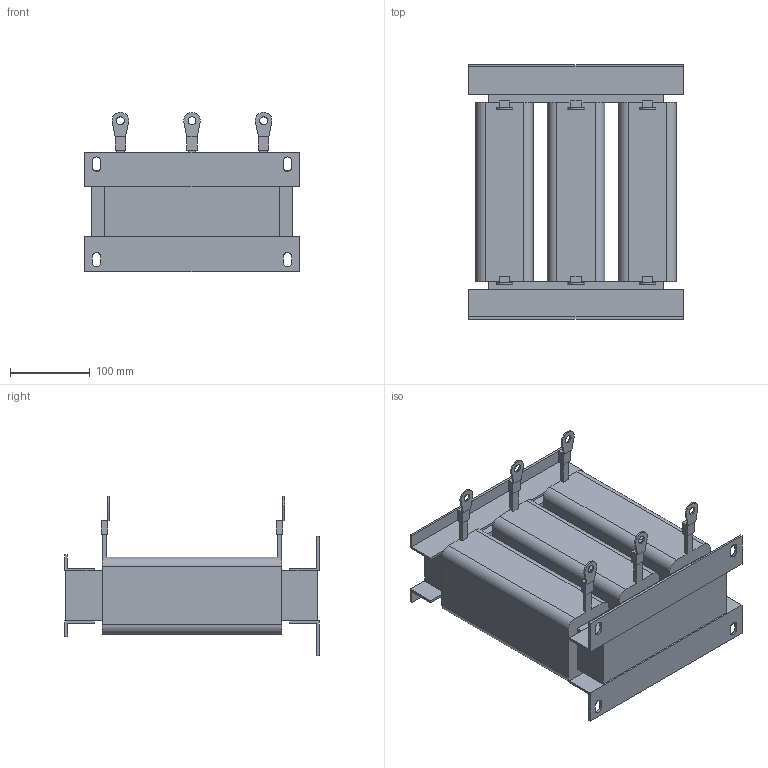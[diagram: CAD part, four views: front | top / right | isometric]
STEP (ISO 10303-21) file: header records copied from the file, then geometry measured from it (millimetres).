
FILE_DESCRIPTION(/* description */ (''),/* implementation_level */ '2;1');
FILE_NAME(/* name */ 'ACO-0052-T6-4.stp',/* time_stamp */ '2025-01-23T15:57:51+04:00',/* author */ ('Александр (огранич)'),/* organization */ (''),/* preprocessor_version */ 'ST-DEVELOPER v19.2',/* originating_system */ 'Autodesk Inventor 2024',/* authorisation */ '');
FILE_SCHEMA (('AUTOMOTIVE_DESIGN { 1 0 10303 214 3 1 1 }'));
Length unit declared in the file: millimetre
Products named in the file (1): ACO-0015-T4-4
Bounding box: 270 x 320 x 199.96 mm (x, y, z)
Volume: 6142086.8 mm3; surface area: 420372.7 mm2
Topology: 7 solids, 7 shells, 190 faces, 498 edges, 324 vertices
Faces by surface type: plane 158, cylinder 32
Full cylindrical faces by diameter (mm): 10 x6
Entity records: 5839 total; most frequent: CARTESIAN_POINT 1013, ORIENTED_EDGE 996, DIRECTION 944, EDGE_CURVE 498, LINE 434, VECTOR 434, VERTEX_POINT 324, AXIS2_PLACEMENT_3D 255
